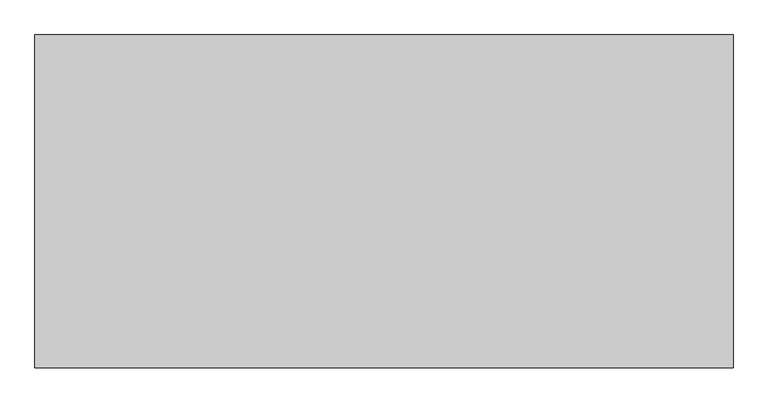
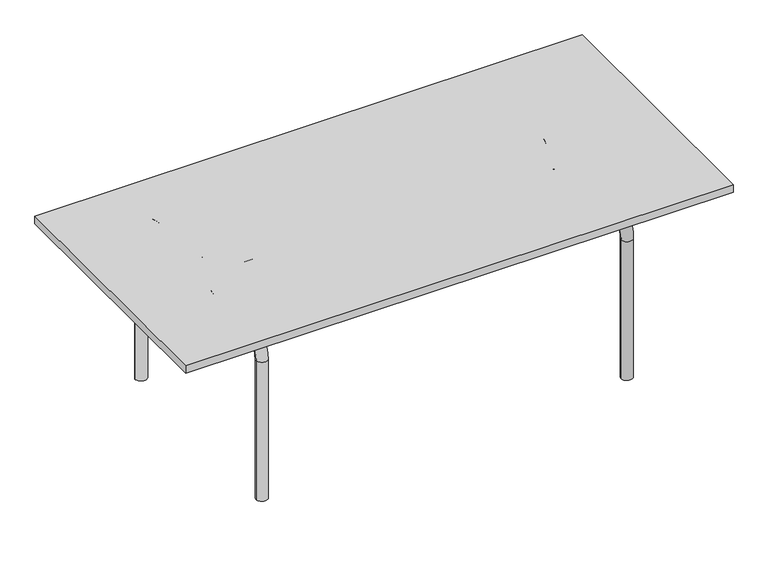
"""IFC4 building model written with IfcOpenShell, lengths in millimetres: furniture geometry, Knoll_Studio_Lovegrove_Table_Desks_Rectangular_mod : Knoll_Studio_Lovegrove_Table_Desks_Rectangular_mod."""

from ifc_helpers import new_model, si_unit, point, frame, origin, place, context, project, spatial, polyline, circle_curve, ellipse_curve, trimmed, outline, extrude, source, transform, mapped, element, save
from ifc_brep_helpers import plane_surface, cylinder_surface, revolved_surface, advanced_brep


def furniture_0e7ee97b(model_context):
    return source(origin(), model_context, "Body", "SolidModel", [
        extrude(outline(polyline([(1048.9164642, -500.1260135), (-1048.9164642, -500.1260135), (-1048.9164642, 500.1260136), (1048.9164642, 500.1260136), (1048.9164642, -500.1260135)])), frame((0.0, 0.0, 685.8), z_axis=(0.0, 0.0, 1.0), x_axis=(1.0, 0.0, 0.0)), (0.0, 0.0, 1.0), 30.48),
        advanced_brep(
        [(0.0, -0.3809992, 663.575012), (0.0, -44.0689992, 663.575012), (597.9159869, -44.0689992, 663.575012), (597.9159869, -0.3809992, 663.575012), (-597.9159869, -0.3809992, 663.575012), (-597.9159869, -44.0689992, 663.575012), (677.6719869, -123.8249992, 663.575012), (721.3599869, -123.8249992, 663.575012), (-721.3599869, -123.8249992, 663.575012), (-677.6719869, -123.8249992, 663.575012), (-721.3599869, -207.6534621, 663.575012), (-677.6719869, -207.6534621, 663.575012), (677.6719869, -207.6534621, 663.575012), (721.3599869, -207.6534621, 663.575012), (-721.3599869, -298.45, 663.575012), (-677.6719869, -298.45, 663.575012), (677.6719869, -298.45, 663.575012), (721.3599869, -298.45, 663.575012), (-721.3599869, -400.05, 1e-07), (-677.6719869, -400.05, 1e-07), (-677.6719869, -400.05, 561.975012), (-721.3599869, -400.05, 561.975012), (-677.7046173, -398.8564787, 1e-07), (-677.7046173, -398.8564787, 2.613678), (-721.3273565, -398.8564787, 2.613678), (-721.3273565, -398.8564787, 1e-07), (677.6719869, -400.05, 561.975012), (721.3599869, -400.05, 561.975012), (677.6719869, -400.05, 1e-07), (721.3599869, -400.05, 1e-07), (721.3273565, -398.8564787, 1e-07), (721.3273565, -398.8564787, 2.613678), (677.7046173, -398.8564787, 2.613678), (677.7046173, -398.8564787, 1e-07)],
        [
            (0, 1, circle_curve(frame((0.0, -22.2249992, 663.575012), z_axis=(1.0, 0.0, 0.0), x_axis=(0.0, 1.0, 0.0)), 21.844)),
            (1, 2),
            (2, 3, circle_curve(frame((597.9159869, -22.2249992, 663.575012), z_axis=(-1.0, 0.0, 0.0), x_axis=(0.0, 1.0, 0.0)), 21.844)),
            (3, 0),
            (1, 0, circle_curve(frame((0.0, -22.2249992, 663.575012), z_axis=(1.0, 0.0, 0.0), x_axis=(0.0, 1.0, 0.0)), 21.844)),
            (3, 2, circle_curve(frame((597.9159869, -22.2249992, 663.575012), z_axis=(-1.0, 0.0, 0.0), x_axis=(0.0, 1.0, 0.0)), 21.844)),
            (0, 4),
            (4, 5, circle_curve(frame((-597.9159869, -22.2249992, 663.575012), z_axis=(1.0, 0.0, 0.0), x_axis=(0.0, 1.0, 0.0)), 21.844)),
            (5, 1),
            (5, 4, circle_curve(frame((-597.9159869, -22.2249992, 663.575012), z_axis=(1.0, 0.0, 0.0), x_axis=(0.0, 1.0, 0.0)), 21.844)),
            (2, 6, circle_curve(frame((597.9159869, -123.8249992, 663.575012), z_axis=(0.0, 0.0, -1.0), x_axis=(0.0, 1.0, 0.0)), 79.756)),
            (6, 7, circle_curve(frame((699.5159869, -123.8249992, 663.575012), z_axis=(0.0, 1.0, 0.0), x_axis=(1.0, 0.0, 0.0)), 21.844)),
            (7, 3, circle_curve(frame((597.9159869, -123.8249992, 663.575012), z_axis=(0.0, 0.0, 1.0), x_axis=(0.0, 1.0, 0.0)), 123.444)),
            (7, 6, circle_curve(frame((699.5159869, -123.8249992, 663.575012), z_axis=(0.0, 1.0, 0.0), x_axis=(1.0, 0.0, 0.0)), 21.844)),
            (4, 8, circle_curve(frame((-597.9159869, -123.8249992, 663.575012), z_axis=(0.0, 0.0, 1.0), x_axis=(-1.0, 0.0, 0.0)), 123.444)),
            (8, 9, circle_curve(frame((-699.5159869, -123.8249992, 663.575012), z_axis=(0.0, 1.0, 0.0), x_axis=(-1.0, 0.0, 0.0)), 21.844)),
            (9, 5, circle_curve(frame((-597.9159869, -123.8249992, 663.575012), z_axis=(0.0, 0.0, -1.0), x_axis=(-1.0, 0.0, 0.0)), 79.756)),
            (9, 8, circle_curve(frame((-699.5159869, -123.8249992, 663.575012), z_axis=(0.0, 1.0, 0.0), x_axis=(-1.0, 0.0, 0.0)), 21.844)),
            (8, 10),
            (10, 11, circle_curve(frame((-699.5159869, -207.6534621, 663.575012), z_axis=(0.0, 1.0, 0.0), x_axis=(-1.0, 0.0, 0.0)), 21.844)),
            (11, 9),
            (11, 10, circle_curve(frame((-699.5159869, -207.6534621, 663.575012), z_axis=(0.0, 1.0, 0.0), x_axis=(-1.0, 0.0, 0.0)), 21.844)),
            (6, 12),
            (12, 13, circle_curve(frame((699.5159869, -207.6534621, 663.575012), z_axis=(0.0, 1.0, 0.0), x_axis=(1.0, 0.0, 0.0)), 21.844)),
            (13, 7),
            (13, 12, circle_curve(frame((699.5159869, -207.6534621, 663.575012), z_axis=(0.0, 1.0, 0.0), x_axis=(1.0, 0.0, 0.0)), 21.844)),
            (10, 14),
            (14, 15, circle_curve(frame((-699.5159869, -298.45, 663.575012), z_axis=(0.0, 1.0, 0.0), x_axis=(-1.0, 0.0, 0.0)), 21.844)),
            (15, 11),
            (15, 14, circle_curve(frame((-699.5159869, -298.45, 663.575012), z_axis=(0.0, 1.0, 0.0), x_axis=(-1.0, 0.0, 0.0)), 21.844)),
            (12, 16),
            (16, 17, circle_curve(frame((699.5159869, -298.45, 663.575012), z_axis=(0.0, 1.0, 0.0), x_axis=(1.0, 0.0, 0.0)), 21.844)),
            (17, 13),
            (17, 16, circle_curve(frame((699.5159869, -298.45, 663.575012), z_axis=(0.0, 1.0, 0.0), x_axis=(1.0, 0.0, 0.0)), 21.844)),
            (18, 19, circle_curve(frame((-699.5159869, -400.05, 1e-07), z_axis=(0.0, 0.0, 1.0), x_axis=(-1.0, 0.0, 0.0)), 21.844)),
            (19, 20),
            (20, 21, circle_curve(frame((-699.5159869, -400.05, 561.975012), z_axis=(0.0, 0.0, -1.0), x_axis=(-1.0, 0.0, 0.0)), 21.844)),
            (21, 18),
            (19, 22, circle_curve(frame((-699.5159869, -400.05, 1e-07), z_axis=(0.0, 0.0, 1.0), x_axis=(-1.0, 0.0, 0.0)), 21.844)),
            (22, 23),
            (23, 24, circle_curve(frame((-699.5159869, -400.05, 2.613678), z_axis=(0.0, 0.0, 1.0), x_axis=(-1.0, 0.0, 0.0)), 21.844)),
            (24, 25),
            (25, 18, circle_curve(frame((-699.5159869, -400.05, 1e-07), z_axis=(0.0, 0.0, 1.0), x_axis=(-1.0, 0.0, 0.0)), 21.844)),
            (21, 20, circle_curve(frame((-699.5159869, -400.05, 561.975012), z_axis=(0.0, 0.0, -1.0), x_axis=(-1.0, 0.0, 0.0)), 21.844)),
            (14, 21, circle_curve(frame((-721.3599869, -298.45, 561.975012), z_axis=(1.0, 0.0, 0.0), x_axis=(0.0, -1.0, 0.0)), 101.6)),
            (20, 15, circle_curve(frame((-677.6719869, -298.45, 561.975012), z_axis=(-1.0, 0.0, 0.0), x_axis=(0.0, -1.0, 0.0)), 101.6)),
            (16, 26, circle_curve(frame((677.6719869, -298.45, 561.975012), z_axis=(1.0, 0.0, 0.0), x_axis=(0.0, 0.0, 1.0)), 101.6)),
            (26, 27, circle_curve(frame((699.5159869, -400.05, 561.975012), z_axis=(0.0, 0.0, 1.0), x_axis=(1.0, 0.0, 0.0)), 21.844)),
            (27, 17, circle_curve(frame((721.3599869, -298.45, 561.975012), z_axis=(-1.0, 0.0, 0.0), x_axis=(0.0, 0.0, 1.0)), 101.6)),
            (27, 26, circle_curve(frame((699.5159869, -400.05, 561.975012), z_axis=(0.0, 0.0, 1.0), x_axis=(1.0, 0.0, 0.0)), 21.844)),
            (28, 29, circle_curve(frame((699.5159869, -400.05, 1e-07), z_axis=(0.0, 0.0, 1.0), x_axis=(1.0, 0.0, 0.0)), 21.844)),
            (29, 27),
            (26, 28),
            (29, 30, circle_curve(frame((699.5159869, -400.05, 1e-07), z_axis=(0.0, 0.0, 1.0), x_axis=(1.0, 0.0, 0.0)), 21.844)),
            (30, 31),
            (31, 32, circle_curve(frame((699.5159869, -400.05, 2.613678), z_axis=(0.0, 0.0, 1.0), x_axis=(1.0, 0.0, 0.0)), 21.844)),
            (32, 33),
            (33, 28, circle_curve(frame((699.5159869, -400.05, 1e-07), z_axis=(0.0, 0.0, 1.0), x_axis=(1.0, 0.0, 0.0)), 21.844)),
            (23, 24),
            (31, 32),
            (25, 22),
            (33, 30),
        ],
        [
            cylinder_surface(frame((0.0, -22.2249992, 663.575012), z_axis=(-1.0, 0.0, 0.0), x_axis=(0.0, 1.0, 0.0)), 21.844),
            cylinder_surface(frame((-597.9159869, -22.2249992, 663.575012), z_axis=(-1.0, 0.0, 0.0), x_axis=(0.0, 1.0, 0.0)), 21.844),
            revolved_surface(trimmed(ellipse_curve(frame((597.9159869, -22.2249992, 663.575012), z_axis=(-1.0, 0.0, 0.0), x_axis=(0.0, 1.0, 0.0)), 21.844, 21.844), [point((597.9159869, -44.0689992, 663.575012))], [point((597.9159869, -0.3809992, 663.575012))], True, "CARTESIAN"), (597.9159869, -123.8249992, 663.575012), (0.0, 0.0, -1.0)),
            revolved_surface(trimmed(ellipse_curve(frame((597.9159869, -22.2249992, 663.575012), z_axis=(-1.0, 0.0, 0.0), x_axis=(0.0, 1.0, 0.0)), 21.844, 21.844), [point((597.9159869, -0.3809992, 663.575012))], [point((597.9159869, -44.0689992, 663.575012))], True, "CARTESIAN"), (597.9159869, -123.8249992, 663.575012), (0.0, 0.0, -1.0)),
            revolved_surface(trimmed(ellipse_curve(frame((-699.5159869, -123.8249992, 663.575012), z_axis=(0.0, -1.0, 0.0), x_axis=(-1.0, 0.0, 0.0)), 21.844, 21.844), [point((-677.6719869, -123.8249992, 663.575012))], [point((-721.3599869, -123.8249992, 663.575012))], True, "CARTESIAN"), (-597.9159869, -123.8249992, 663.575012), (0.0, 0.0, -1.0)),
            revolved_surface(trimmed(ellipse_curve(frame((-699.5159869, -123.8249992, 663.575012), z_axis=(0.0, -1.0, 0.0), x_axis=(-1.0, 0.0, 0.0)), 21.844, 21.844), [point((-721.3599869, -123.8249992, 663.575012))], [point((-677.6719869, -123.8249992, 663.575012))], True, "CARTESIAN"), (-597.9159869, -123.8249992, 663.575012), (0.0, 0.0, -1.0)),
            cylinder_surface(frame((-699.5159869, -207.6534621, 663.575012), z_axis=(0.0, -1.0, 0.0), x_axis=(-1.0, 0.0, 0.0)), 21.844),
            cylinder_surface(frame((699.5159869, -123.8249992, 663.575012), z_axis=(0.0, 1.0, 0.0), x_axis=(1.0, 0.0, 0.0)), 21.844),
            cylinder_surface(frame((-699.5159869, -298.45, 663.575012), z_axis=(0.0, -1.0, 0.0), x_axis=(-1.0, 0.0, 0.0)), 21.844),
            cylinder_surface(frame((699.5159869, -207.6534621, 663.575012), z_axis=(0.0, 1.0, 0.0), x_axis=(1.0, 0.0, 0.0)), 21.844),
            cylinder_surface(frame((-699.5159869, -400.05, 1e-07), z_axis=(0.0, 0.0, -1.0), x_axis=(-1.0, 0.0, 0.0)), 21.844),
            revolved_surface(trimmed(ellipse_curve(frame((-699.5159869, -400.05, 561.975012), z_axis=(0.0, 0.0, -1.0), x_axis=(-1.0, 0.0, 0.0)), 21.844, 21.844), [point((-677.6719869, -400.05, 561.975012))], [point((-721.3599869, -400.05, 561.975012))], True, "CARTESIAN"), (-699.5159869, -298.45, 561.975012), (-1.0, 0.0, 0.0)),
            revolved_surface(trimmed(ellipse_curve(frame((-699.5159869, -400.05, 561.975012), z_axis=(0.0, 0.0, -1.0), x_axis=(-1.0, 0.0, 0.0)), 21.844, 21.844), [point((-721.3599869, -400.05, 561.975012))], [point((-677.6719869, -400.05, 561.975012))], True, "CARTESIAN"), (-699.5159869, -298.45, 561.975012), (-1.0, 0.0, 0.0)),
            revolved_surface(trimmed(ellipse_curve(frame((699.5159869, -298.45, 663.575012), z_axis=(0.0, 1.0, 0.0), x_axis=(1.0, 0.0, 0.0)), 21.844, 21.844), [point((677.6719869, -298.45, 663.575012))], [point((721.3599869, -298.45, 663.575012))], True, "CARTESIAN"), (699.5159869, -298.45, 561.975012), (1.0, 0.0, 0.0)),
            revolved_surface(trimmed(ellipse_curve(frame((699.5159869, -298.45, 663.575012), z_axis=(0.0, 1.0, 0.0), x_axis=(1.0, 0.0, 0.0)), 21.844, 21.844), [point((721.3599869, -298.45, 663.575012))], [point((677.6719869, -298.45, 663.575012))], True, "CARTESIAN"), (699.5159869, -298.45, 561.975012), (1.0, 0.0, 0.0)),
            cylinder_surface(frame((699.5159869, -400.05, 561.975012), z_axis=(0.0, 0.0, 1.0), x_axis=(1.0, 0.0, 0.0)), 21.844),
            plane_surface(frame((768.710779, -174.665633, 2.613678), z_axis=(0.0, 0.0, -1.0), x_axis=(-1.0, 0.0, 0.0))),
            plane_surface(frame((-699.5159869, -421.894, 1e-07), z_axis=(0.0, 0.0, -1.0), x_axis=(1.0, 0.0, 0.0))),
            plane_surface(frame((699.5159869, -421.894, 1e-07), z_axis=(0.0, 0.0, -1.0), x_axis=(-1.0, 0.0, 0.0))),
            plane_surface(frame((768.710779, -398.8564787, 2.613678), z_axis=(0.0, 1.0, 0.0), x_axis=(-1.0, 0.0, 0.0))),
        ],
        [
            (0, [[1, 2, 3, 4]]),
            (0, [[-2, 5, -4, 6]]),
            (1, [[-1, 7, 8, 9]]),
            (1, [[-5, -9, 10, -7]]),
            (2, [[-3, 11, 12, 13]]),
            (3, [[-6, -13, 14, -11]]),
            (4, [[-8, 15, 16, 17]]),
            (5, [[-10, -17, 18, -15]]),
            (6, [[-16, 19, 20, 21]]),
            (6, [[-18, -21, 22, -19]]),
            (7, [[-12, 23, 24, 25]]),
            (7, [[-14, -25, 26, -23]]),
            (8, [[-20, 27, 28, 29]]),
            (8, [[-22, -29, 30, -27]]),
            (9, [[-24, 31, 32, 33]]),
            (9, [[-26, -33, 34, -31]]),
            (10, [[35, 36, 37, 38]]),
            (10, [[-36, 39, 40, 41, 42, 43, -38, 44]]),
            (11, [[-28, 45, -37, 46]]),
            (12, [[-30, -46, -44, -45]]),
            (13, [[-32, 47, 48, 49]]),
            (14, [[-34, -49, 50, -47]]),
            (15, [[51, 52, -48, 53]]),
            (15, [[-50, -52, 54, 55, 56, 57, 58, -53]]),
            (16, [[59, -41]]),
            (16, [[60, -56]]),
            (17, [[-35, -43, 61, -39]]),
            (18, [[-51, -58, 62, -54]]),
            (19, [[-59, -40, -61, -42]]),
            (19, [[-60, -55, -62, -57]]),
        ],
    ),
        advanced_brep(
        [(0.0, 44.0689992, 663.575012), (0.0, 0.3809992, 663.575012), (597.9159869, 0.3809992, 663.575012), (597.9159869, 44.0689992, 663.575012), (-597.9159869, 44.0689992, 663.575012), (-597.9159869, 0.3809992, 663.575012), (721.3599869, 123.8249992, 663.575012), (677.6719869, 123.8249992, 663.575012), (-677.6719869, 123.8249992, 663.575012), (-721.3599869, 123.8249992, 663.575012), (-677.6719869, 207.6534621, 663.575012), (-721.3599869, 207.6534621, 663.575012), (721.3599869, 207.6534621, 663.575012), (677.6719869, 207.6534621, 663.575012), (-677.6719869, 298.45, 663.575012), (-721.3599869, 298.45, 663.575012), (721.3599869, 298.45, 663.575012), (677.6719869, 298.45, 663.575012), (-677.6719869, 400.05, 1e-07), (-721.3599869, 400.05, 1e-07), (-721.3599869, 400.05, 561.975012), (-677.6719869, 400.05, 561.975012), (-721.3273565, 398.8564787, 1e-07), (-721.3273565, 398.8564787, 2.613678), (-677.7046173, 398.8564787, 2.613678), (-677.7046173, 398.8564787, 1e-07), (721.3599869, 400.05, 561.975012), (677.6719869, 400.05, 561.975012), (721.3599869, 400.05, 1e-07), (677.6719869, 400.05, 1e-07), (677.7046173, 398.8564787, 1e-07), (677.7046173, 398.8564787, 2.613678), (721.3273565, 398.8564787, 2.613678), (721.3273565, 398.8564787, 1e-07)],
        [
            (0, 1, circle_curve(frame((0.0, 22.2249992, 663.575012), z_axis=(1.0, 0.0, 0.0), x_axis=(0.0, -1.0, 0.0)), 21.844)),
            (1, 2),
            (2, 3, circle_curve(frame((597.9159869, 22.2249992, 663.575012), z_axis=(-1.0, 0.0, 0.0), x_axis=(0.0, -1.0, 0.0)), 21.844)),
            (3, 0),
            (1, 0, circle_curve(frame((0.0, 22.2249992, 663.575012), z_axis=(1.0, 0.0, 0.0), x_axis=(0.0, -1.0, 0.0)), 21.844)),
            (3, 2, circle_curve(frame((597.9159869, 22.2249992, 663.575012), z_axis=(-1.0, 0.0, 0.0), x_axis=(0.0, -1.0, 0.0)), 21.844)),
            (0, 4),
            (4, 5, circle_curve(frame((-597.9159869, 22.2249992, 663.575012), z_axis=(1.0, 0.0, 0.0), x_axis=(0.0, -1.0, 0.0)), 21.844)),
            (5, 1),
            (5, 4, circle_curve(frame((-597.9159869, 22.2249992, 663.575012), z_axis=(1.0, 0.0, 0.0), x_axis=(0.0, -1.0, 0.0)), 21.844)),
            (2, 6, circle_curve(frame((597.9159869, 123.8249992, 663.575012), z_axis=(0.0, 0.0, 1.0), x_axis=(0.0, -1.0, 0.0)), 123.444)),
            (6, 7, circle_curve(frame((699.5159869, 123.8249992, 663.575012), z_axis=(0.0, -1.0, 0.0), x_axis=(1.0, 0.0, 0.0)), 21.844)),
            (7, 3, circle_curve(frame((597.9159869, 123.8249992, 663.575012), z_axis=(0.0, 0.0, -1.0), x_axis=(0.0, -1.0, 0.0)), 79.756)),
            (7, 6, circle_curve(frame((699.5159869, 123.8249992, 663.575012), z_axis=(0.0, -1.0, 0.0), x_axis=(1.0, 0.0, 0.0)), 21.844)),
            (4, 8, circle_curve(frame((-597.9159869, 123.8249992, 663.575012), z_axis=(0.0, 0.0, -1.0), x_axis=(-1.0, 0.0, 0.0)), 79.756)),
            (8, 9, circle_curve(frame((-699.5159869, 123.8249992, 663.575012), z_axis=(0.0, -1.0, 0.0), x_axis=(-1.0, 0.0, 0.0)), 21.844)),
            (9, 5, circle_curve(frame((-597.9159869, 123.8249992, 663.575012), z_axis=(0.0, 0.0, 1.0), x_axis=(-1.0, 0.0, 0.0)), 123.444)),
            (9, 8, circle_curve(frame((-699.5159869, 123.8249992, 663.575012), z_axis=(0.0, -1.0, 0.0), x_axis=(-1.0, 0.0, 0.0)), 21.844)),
            (8, 10),
            (10, 11, circle_curve(frame((-699.5159869, 207.6534621, 663.575012), z_axis=(0.0, -1.0, 0.0), x_axis=(-1.0, 0.0, 0.0)), 21.844)),
            (11, 9),
            (11, 10, circle_curve(frame((-699.5159869, 207.6534621, 663.575012), z_axis=(0.0, -1.0, 0.0), x_axis=(-1.0, 0.0, 0.0)), 21.844)),
            (6, 12),
            (12, 13, circle_curve(frame((699.5159869, 207.6534621, 663.575012), z_axis=(0.0, -1.0, 0.0), x_axis=(1.0, 0.0, 0.0)), 21.844)),
            (13, 7),
            (13, 12, circle_curve(frame((699.5159869, 207.6534621, 663.575012), z_axis=(0.0, -1.0, 0.0), x_axis=(1.0, 0.0, 0.0)), 21.844)),
            (10, 14),
            (14, 15, circle_curve(frame((-699.5159869, 298.45, 663.575012), z_axis=(0.0, -1.0, 0.0), x_axis=(-1.0, 0.0, 0.0)), 21.844)),
            (15, 11),
            (15, 14, circle_curve(frame((-699.5159869, 298.45, 663.575012), z_axis=(0.0, -1.0, 0.0), x_axis=(-1.0, 0.0, 0.0)), 21.844)),
            (12, 16),
            (16, 17, circle_curve(frame((699.5159869, 298.45, 663.575012), z_axis=(0.0, -1.0, 0.0), x_axis=(1.0, 0.0, 0.0)), 21.844)),
            (17, 13),
            (17, 16, circle_curve(frame((699.5159869, 298.45, 663.575012), z_axis=(0.0, -1.0, 0.0), x_axis=(1.0, 0.0, 0.0)), 21.844)),
            (18, 19, circle_curve(frame((-699.5159869, 400.05, 1e-07), z_axis=(0.0, 0.0, 1.0), x_axis=(-1.0, 0.0, 0.0)), 21.844)),
            (19, 20),
            (20, 21, circle_curve(frame((-699.5159869, 400.05, 561.975012), z_axis=(0.0, 0.0, -1.0), x_axis=(-1.0, 0.0, 0.0)), 21.844)),
            (21, 18),
            (19, 22, circle_curve(frame((-699.5159869, 400.05, 1e-07), z_axis=(0.0, 0.0, 1.0), x_axis=(-1.0, 0.0, 0.0)), 21.844)),
            (22, 23),
            (23, 24, circle_curve(frame((-699.5159869, 400.05, 2.613678), z_axis=(0.0, 0.0, 1.0), x_axis=(-1.0, 0.0, 0.0)), 21.844)),
            (24, 25),
            (25, 18, circle_curve(frame((-699.5159869, 400.05, 1e-07), z_axis=(0.0, 0.0, 1.0), x_axis=(-1.0, 0.0, 0.0)), 21.844)),
            (21, 20, circle_curve(frame((-699.5159869, 400.05, 561.975012), z_axis=(0.0, 0.0, -1.0), x_axis=(-1.0, 0.0, 0.0)), 21.844)),
            (14, 21, circle_curve(frame((-677.6719869, 298.45, 561.975012), z_axis=(-1.0, 0.0, 0.0), x_axis=(0.0, 1.0, 0.0)), 101.6)),
            (20, 15, circle_curve(frame((-721.3599869, 298.45, 561.975012), z_axis=(1.0, 0.0, 0.0), x_axis=(0.0, 1.0, 0.0)), 101.6)),
            (16, 26, circle_curve(frame((721.3599869, 298.45, 561.975012), z_axis=(-1.0, 0.0, 0.0), x_axis=(0.0, 0.0, 1.0)), 101.6)),
            (26, 27, circle_curve(frame((699.5159869, 400.05, 561.975012), z_axis=(0.0, 0.0, 1.0), x_axis=(1.0, 0.0, 0.0)), 21.844)),
            (27, 17, circle_curve(frame((677.6719869, 298.45, 561.975012), z_axis=(1.0, 0.0, 0.0), x_axis=(0.0, 0.0, 1.0)), 101.6)),
            (27, 26, circle_curve(frame((699.5159869, 400.05, 561.975012), z_axis=(0.0, 0.0, 1.0), x_axis=(1.0, 0.0, 0.0)), 21.844)),
            (28, 29, circle_curve(frame((699.5159869, 400.05, 1e-07), z_axis=(0.0, 0.0, 1.0), x_axis=(1.0, 0.0, 0.0)), 21.844)),
            (29, 27),
            (26, 28),
            (29, 30, circle_curve(frame((699.5159869, 400.05, 1e-07), z_axis=(0.0, 0.0, 1.0), x_axis=(1.0, 0.0, 0.0)), 21.844)),
            (30, 31),
            (31, 32, circle_curve(frame((699.5159869, 400.05, 2.613678), z_axis=(0.0, 0.0, 1.0), x_axis=(1.0, 0.0, 0.0)), 21.844)),
            (32, 33),
            (33, 28, circle_curve(frame((699.5159869, 400.05, 1e-07), z_axis=(0.0, 0.0, 1.0), x_axis=(1.0, 0.0, 0.0)), 21.844)),
            (23, 24),
            (31, 32),
            (25, 22),
            (33, 30),
        ],
        [
            cylinder_surface(frame((0.0, 22.2249992, 663.575012), z_axis=(-1.0, 0.0, 0.0), x_axis=(0.0, -1.0, 0.0)), 21.844),
            cylinder_surface(frame((-597.9159869, 22.2249992, 663.575012), z_axis=(-1.0, 0.0, 0.0), x_axis=(0.0, -1.0, 0.0)), 21.844),
            revolved_surface(trimmed(ellipse_curve(frame((597.9159869, 22.2249992, 663.575012), z_axis=(-1.0, 0.0, 0.0), x_axis=(0.0, -1.0, 0.0)), 21.844, 21.844), [point((597.9159869, 0.3809992, 663.575012))], [point((597.9159869, 44.0689992, 663.575012))], True, "CARTESIAN"), (597.9159869, 123.8249992, 663.575012), (0.0, 0.0, 1.0)),
            revolved_surface(trimmed(ellipse_curve(frame((597.9159869, 22.2249992, 663.575012), z_axis=(-1.0, 0.0, 0.0), x_axis=(0.0, -1.0, 0.0)), 21.844, 21.844), [point((597.9159869, 44.0689992, 663.575012))], [point((597.9159869, 0.3809992, 663.575012))], True, "CARTESIAN"), (597.9159869, 123.8249992, 663.575012), (0.0, 0.0, 1.0)),
            revolved_surface(trimmed(ellipse_curve(frame((-699.5159869, 123.8249992, 663.575012), z_axis=(0.0, 1.0, 0.0), x_axis=(-1.0, 0.0, 0.0)), 21.844, 21.844), [point((-721.3599869, 123.8249992, 663.575012))], [point((-677.6719869, 123.8249992, 663.575012))], True, "CARTESIAN"), (-597.9159869, 123.8249992, 663.575012), (0.0, 0.0, 1.0)),
            revolved_surface(trimmed(ellipse_curve(frame((-699.5159869, 123.8249992, 663.575012), z_axis=(0.0, 1.0, 0.0), x_axis=(-1.0, 0.0, 0.0)), 21.844, 21.844), [point((-677.6719869, 123.8249992, 663.575012))], [point((-721.3599869, 123.8249992, 663.575012))], True, "CARTESIAN"), (-597.9159869, 123.8249992, 663.575012), (0.0, 0.0, 1.0)),
            cylinder_surface(frame((-699.5159869, 207.6534621, 663.575012), z_axis=(0.0, 1.0, 0.0), x_axis=(-1.0, 0.0, 0.0)), 21.844),
            cylinder_surface(frame((699.5159869, 123.8249992, 663.575012), z_axis=(0.0, -1.0, 0.0), x_axis=(1.0, 0.0, 0.0)), 21.844),
            cylinder_surface(frame((-699.5159869, 298.45, 663.575012), z_axis=(0.0, 1.0, 0.0), x_axis=(-1.0, 0.0, 0.0)), 21.844),
            cylinder_surface(frame((699.5159869, 207.6534621, 663.575012), z_axis=(0.0, -1.0, 0.0), x_axis=(1.0, 0.0, 0.0)), 21.844),
            cylinder_surface(frame((-699.5159869, 400.05, 1e-07), z_axis=(0.0, 0.0, -1.0), x_axis=(-1.0, 0.0, 0.0)), 21.844),
            revolved_surface(trimmed(ellipse_curve(frame((-699.5159869, 400.05, 561.975012), z_axis=(0.0, 0.0, -1.0), x_axis=(-1.0, 0.0, 0.0)), 21.844, 21.844), [point((-721.3599869, 400.05, 561.975012))], [point((-677.6719869, 400.05, 561.975012))], True, "CARTESIAN"), (-699.5159869, 298.45, 561.975012), (1.0, 0.0, 0.0)),
            revolved_surface(trimmed(ellipse_curve(frame((-699.5159869, 400.05, 561.975012), z_axis=(0.0, 0.0, -1.0), x_axis=(-1.0, 0.0, 0.0)), 21.844, 21.844), [point((-677.6719869, 400.05, 561.975012))], [point((-721.3599869, 400.05, 561.975012))], True, "CARTESIAN"), (-699.5159869, 298.45, 561.975012), (1.0, 0.0, 0.0)),
            revolved_surface(trimmed(ellipse_curve(frame((699.5159869, 298.45, 663.575012), z_axis=(0.0, -1.0, 0.0), x_axis=(1.0, 0.0, 0.0)), 21.844, 21.844), [point((721.3599869, 298.45, 663.575012))], [point((677.6719869, 298.45, 663.575012))], True, "CARTESIAN"), (699.5159869, 298.45, 561.975012), (-1.0, 0.0, 0.0)),
            revolved_surface(trimmed(ellipse_curve(frame((699.5159869, 298.45, 663.575012), z_axis=(0.0, -1.0, 0.0), x_axis=(1.0, 0.0, 0.0)), 21.844, 21.844), [point((677.6719869, 298.45, 663.575012))], [point((721.3599869, 298.45, 663.575012))], True, "CARTESIAN"), (699.5159869, 298.45, 561.975012), (-1.0, 0.0, 0.0)),
            cylinder_surface(frame((699.5159869, 400.05, 561.975012), z_axis=(0.0, 0.0, 1.0), x_axis=(1.0, 0.0, 0.0)), 21.844),
            plane_surface(frame((792.6368888, 398.8564787, 2.613678), z_axis=(0.0, 0.0, -1.0), x_axis=(-1.0, 0.0, 0.0))),
            plane_surface(frame((-699.5159869, 378.206, 1e-07), z_axis=(0.0, 0.0, -1.0), x_axis=(1.0, 0.0, 0.0))),
            plane_surface(frame((699.5159869, 378.206, 1e-07), z_axis=(0.0, 0.0, -1.0), x_axis=(-1.0, 0.0, 0.0))),
            plane_surface(frame((792.6368888, 398.8564787, -111.686322), z_axis=(0.0, -1.0, 0.0), x_axis=(-1.0, 0.0, 0.0))),
        ],
        [
            (0, [[1, 2, 3, 4]]),
            (0, [[-2, 5, -4, 6]]),
            (1, [[-1, 7, 8, 9]]),
            (1, [[-5, -9, 10, -7]]),
            (2, [[-3, 11, 12, 13]]),
            (3, [[-6, -13, 14, -11]]),
            (4, [[-8, 15, 16, 17]]),
            (5, [[-10, -17, 18, -15]]),
            (6, [[-16, 19, 20, 21]]),
            (6, [[-18, -21, 22, -19]]),
            (7, [[-12, 23, 24, 25]]),
            (7, [[-14, -25, 26, -23]]),
            (8, [[-20, 27, 28, 29]]),
            (8, [[-22, -29, 30, -27]]),
            (9, [[-24, 31, 32, 33]]),
            (9, [[-26, -33, 34, -31]]),
            (10, [[35, 36, 37, 38]]),
            (10, [[-36, 39, 40, 41, 42, 43, -38, 44]]),
            (11, [[-28, 45, -37, 46]]),
            (12, [[-30, -46, -44, -45]]),
            (13, [[-32, 47, 48, 49]]),
            (14, [[-34, -49, 50, -47]]),
            (15, [[51, 52, -48, 53]]),
            (15, [[-50, -52, 54, 55, 56, 57, 58, -53]]),
            (16, [[59, -41]]),
            (16, [[60, -56]]),
            (17, [[-35, -43, 61, -39]]),
            (18, [[-51, -58, 62, -54]]),
            (19, [[-59, -40, -61, -42]]),
            (19, [[-60, -55, -62, -57]]),
        ],
    ),
    ])


if __name__ == "__main__":
    model = new_model("IFC4")
    model_context = context("Model", 3, world=origin())
    ifc_project = project(units=[si_unit("LENGTHUNIT", "METRE", prefix="MILLI")], contexts=[model_context])
    site = spatial("IfcSite", under=ifc_project)
    building = spatial("IfcBuilding", under=site)
    placement = place(None, origin())
    furniture_shape = furniture_0e7ee97b(model_context)
    element("IfcFurniture", 1, ObjectType="Knoll_Studio_Lovegrove_Table_Desks_Rectangular_mod : Knoll_Studio_Lovegrove_Table_Desks_Rectangular_mod", at=placement, inside=building, context=model_context, shape_type="MappedRepresentation", body=[
        mapped(furniture_shape, transform((0.0, 0.0, 0.0), x_axis=(1.0, 0.0, 0.0), y_axis=(0.0, 1.0, 0.0), z_axis=(0.0, 0.0, 1.0))),
    ])
    save(model, "model.ifc")
